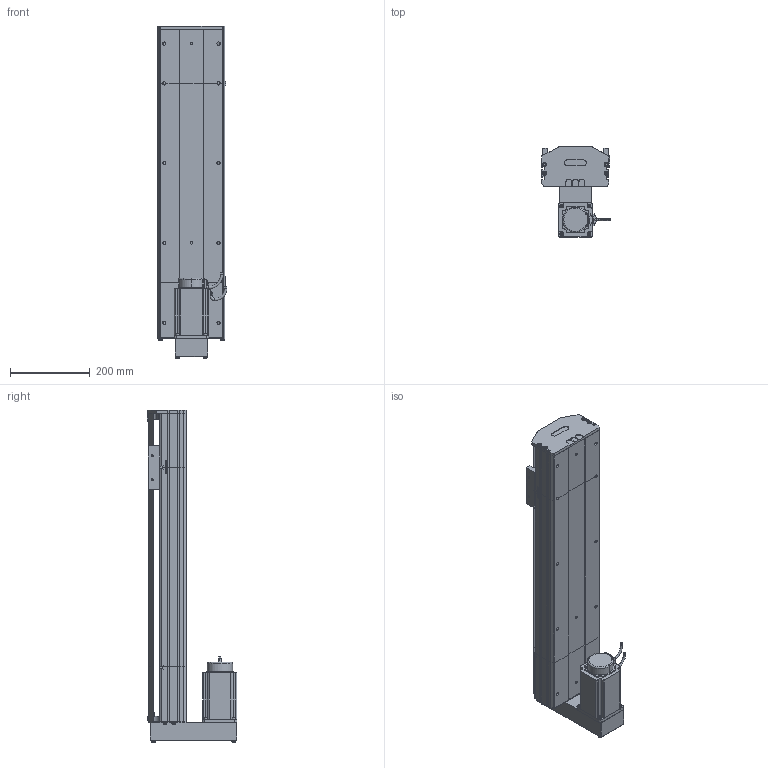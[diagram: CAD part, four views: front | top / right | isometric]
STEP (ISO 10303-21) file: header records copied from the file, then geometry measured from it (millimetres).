
FILE_DESCRIPTION (( 'STEP AP214' ), '1' );
FILE_NAME ('D17 TSN BM S500.STEP', '2010-06-30T07:31:41', ( 'Christophe Gaillard' ), ( 'SGA' ), 'SwSTEP 2.0', 'SolidWorks 2010', '' );
FILE_SCHEMA (( 'AUTOMOTIVE_DESIGN' ));
Length unit declared in the file: millimetre
Products named in the file (33): corp D17 500_Default; Arbre+rail tail D17; tete d''axe haut D17; tete d''axe bas D17; plaque de  bout tail D17_Default; corpl tail D17+L100_Default; Tail D17+L100_Default; couvercle D17 course L500_Default; couvercle D17_Default; chariot D17 TSN; Cvis M5 L70_Default; vis M5 L12_Default; guide D17; Chariot D17 TBN; renvoi Bm_Default; Vis M5 L16-2_Default; Conecteur_Default; Conecteur2_Default; codeur 90BLDC125-640; corps 90BLDC125A-640; avant 90BLDC125A-640; Moteur motionking 90BLDC125A-640; vis M5 L5_Default; Arbre+rail head D17; plaque de  bout BM head D17_Default; couvercle D17 head_Default; vis M5 L25_Default; vis M5 L8 90°_Default; corpl head D17 BM_Default; head BM_Default; arbre + rail D17 Course 500 ; course 500 D17_Default; D17 TSN BM S500
Assembly tree (51 placements, depth 4):
  D17 TSN BM S500
    Tail D17+L100_Default
      corpl tail D17+L100_Default
      vis M5 L12_Default  x4
      tete d''axe bas D17
      Arbre+rail tail D17
      plaque de  bout tail D17_Default
      vis M5 L8 90°_Default  x2
      tete d''axe haut D17
      couvercle D17_Default
      vis M5 L25_Default  x2
    head BM_Default
      vis M5 L5_Default  x2
      Cvis M5 L70_Default  x2
      Vis M5 L16-2_Default  x4
      couvercle D17 head_Default
      vis M5 L12_Default  x8
      plaque de  bout BM head D17_Default
      Moteur motionking 90BLDC125A-640
        corps 90BLDC125A-640
        avant 90BLDC125A-640
        Conecteur_Default
        Conecteur2_Default
        codeur 90BLDC125-640
      Arbre+rail head D17
      corpl head D17 BM_Default
      renvoi Bm_Default
    chariot D17 TSN
      guide D17  x2
      Chariot D17 TBN
    course 500 D17_Default
      arbre + rail D17 Course 500 
      corp D17 500_Default
      couvercle D17 course L500_Default
Bounding box: 174.95 x 225.7 x 832.7 mm (x, y, z)
Volume: 6033163.8 mm3; surface area: 1500546.6 mm2
Topology: 75 solids, 75 shells, 2115 faces, 5345 edges, 3456 vertices
Faces by surface type: plane 1326, cylinder 528, bspline 136, torus 65, cone 56, sphere 4
Entity records: 70766 total; most frequent: CARTESIAN_POINT 22436, ORIENTED_EDGE 8598, DIRECTION 8012, EDGE_CURVE 4299, VECTOR 3016, LINE 3016, VERTEX_POINT 2822, AXIS2_PLACEMENT_3D 2498
